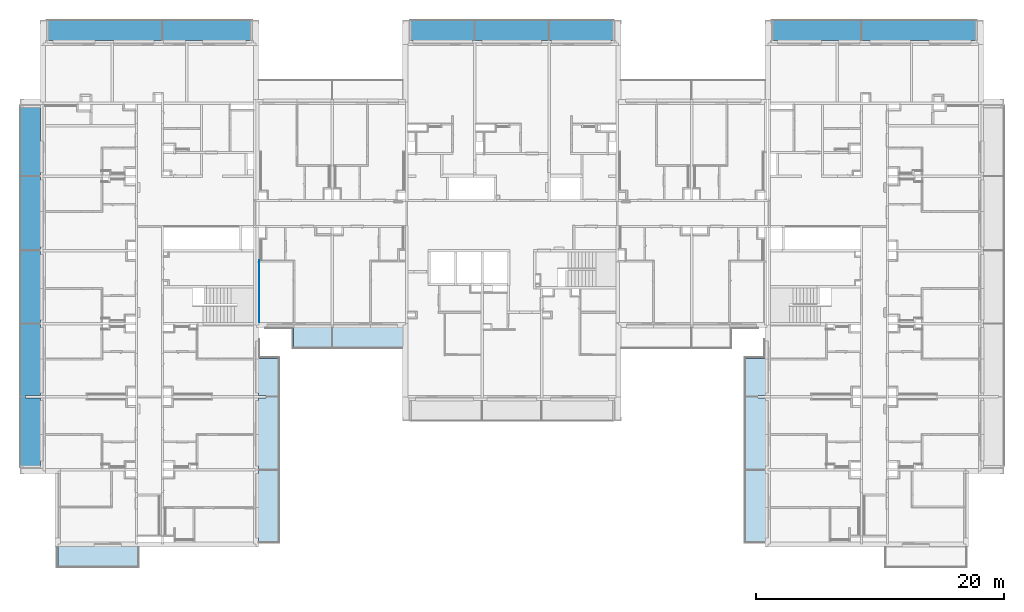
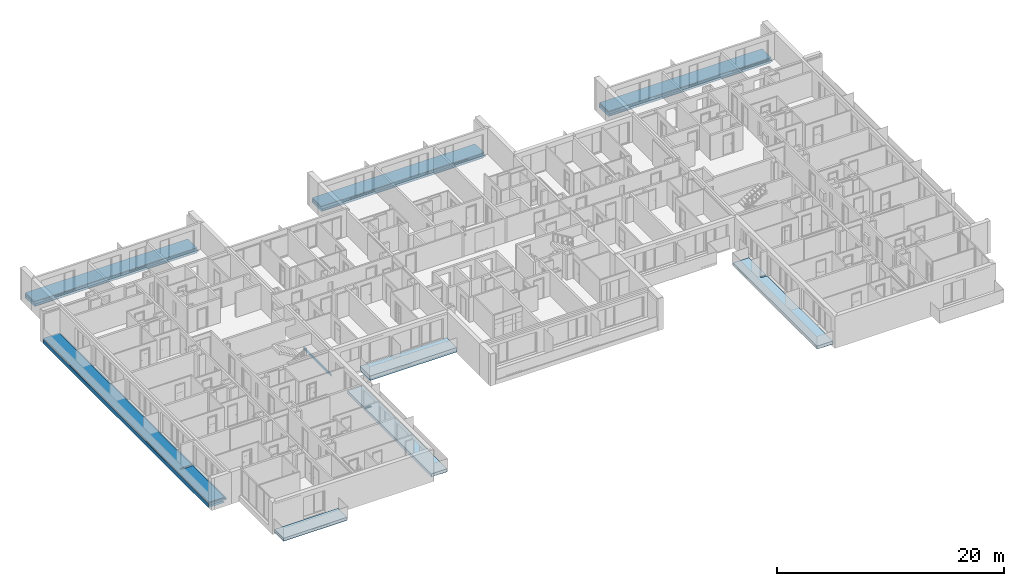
# One storey, part 1 of 67: 5 slabs, 4 beams.
"""IFC2X3 building model written with IfcOpenShell, lengths in millimetres."""

import ifcopenshell
import ifcopenshell.guid

model = None  # the IFC model being written
_history = None  # IfcOwnerHistory: only IFC2X3 demands one
_inside = {}  # id of a spatial element -> (the spatial element, [elements in it])
_under = {}  # id of a project, library or spatial element -> (it, [spatial elements below it])
_declared = {}  # id of a project -> (the project, [libraries it declares])
_typed = {}  # id of a type object -> (the type object, [elements of that type])
_made_of = {}  # id of a material, layer set ... -> (it, [elements and type objects made of it])


def new_model(schema):
    """Start an empty IFC model of exactly this schema.

    Asked for "IFC4X3", IfcOpenShell would pick the latest addendum, in which some entities
    have other attributes; the version numbers below select the first issue.
    IFC2X3 requires an IfcOwnerHistory on every rooted entity: one is made here for all.
    """
    global model, _history
    if schema == "IFC4X3":
        model = ifcopenshell.file(schema_version=(4, 3, 0, 0))
    else:
        model = ifcopenshell.file(schema=schema)
    _inside.clear()
    _under.clear()
    _declared.clear()
    _typed.clear()
    _made_of.clear()
    _history = None
    if model.schema == "IFC2X3":
        org = make("IfcOrganization", Name="unknown")
        user = make(
            "IfcPersonAndOrganization",
            ThePerson=make("IfcPerson", FamilyName="unknown"),
            TheOrganization=org,
        )
        app = make(
            "IfcApplication",
            ApplicationDeveloper=org,
            Version="unknown",
            ApplicationFullName="unknown",
            ApplicationIdentifier="unknown",
        )
        _history = make(
            "IfcOwnerHistory",
            OwningUser=user,
            OwningApplication=app,
            ChangeAction="ADDED",
            CreationDate=0,
        )
    return model


def make(cls, **values):
    """One entity of the class cls with the attributes given. An attribute that is None is left unset."""
    return model.create_entity(
        cls, **{name: value for name, value in values.items() if value is not None}
    )


def entity(cls, *values):
    """Any entity or typed value of the class cls, its attributes in the order of the schema. None: left unset."""
    e = model.create_entity(cls)
    for i, value in enumerate(values):
        if value is not None:
            e[i] = value
    return e


def rooted(cls, **values):
    """An entity with a GlobalId (a new one), such as an element, a storey or a relation."""
    return make(cls, GlobalId=ifcopenshell.guid.new(), OwnerHistory=_history, **values)


def si_unit(unit_type, name, prefix=None):
    """IfcSIUnit, for example si_unit("LENGTHUNIT", "METRE", prefix="MILLI")."""
    return make("IfcSIUnit", UnitType=unit_type, Prefix=prefix, Name=name)


def converted_unit(unit_type, name, factor, base, dimensions=None, offset=None):
    """IfcConversionBasedUnit, such as the inch: factor (a typed value) times the base unit."""
    return make(
        "IfcConversionBasedUnit"
        if offset is None
        else "IfcConversionBasedUnitWithOffset",
        ConversionOffset=offset,
        Dimensions=None
        if dimensions is None
        else entity("IfcDimensionalExponents", *dimensions),
        UnitType=unit_type,
        Name=name,
        ConversionFactor=make(
            "IfcMeasureWithUnit", ValueComponent=factor, UnitComponent=base
        ),
    )


def derived_unit(unit_type, elements):
    """IfcDerivedUnit: a product of units, each with its exponent."""
    return make(
        "IfcDerivedUnit",
        Elements=[
            make("IfcDerivedUnitElement", Unit=unit, Exponent=power)
            for unit, power in elements
        ],
        UnitType=unit_type,
    )


def money_unit(currency):
    """IfcMonetaryUnit."""
    return make("IfcMonetaryUnit", Currency=currency)


def assignment(units):
    """IfcUnitAssignment: the units of a project."""
    return None if units is None else make("IfcUnitAssignment", Units=units)


def point(xyz):
    """IfcCartesianPoint."""
    return None if xyz is None else make("IfcCartesianPoint", Coordinates=xyz)


def direction(xyz):
    """IfcDirection."""
    return None if xyz is None else make("IfcDirection", DirectionRatios=xyz)


def frame(location, z_axis=None, x_axis=None):
    """IfcAxis2Placement3D, a coordinate frame: its origin and axes. An axis left out is left unset."""
    return make(
        "IfcAxis2Placement3D",
        Location=point(location),
        Axis=direction(z_axis),
        RefDirection=direction(x_axis),
    )


def origin_with_axes():
    """The frame at (0, 0, 0) with the z axis (0, 0, 1) and the x axis (1, 0, 0) written out."""
    return frame((0.0, 0.0, 0.0), z_axis=(0.0, 0.0, 1.0), x_axis=(1.0, 0.0, 0.0))


def place(relative_to, where):
    """IfcLocalPlacement: puts the frame where relative to a parent placement (None: the world)."""
    return make(
        "IfcLocalPlacement", PlacementRelTo=relative_to, RelativePlacement=where
    )


def context(
    kind, dimensions, precision=None, world=None, true_north=None, identifier=None
):
    """IfcGeometricRepresentationContext, for example the 3D "Model" context."""
    return make(
        "IfcGeometricRepresentationContext",
        ContextIdentifier=identifier,
        ContextType=kind,
        CoordinateSpaceDimension=dimensions,
        Precision=precision,
        WorldCoordinateSystem=world,
        TrueNorth=true_north,
    )


def subcontext(parent, identifier, kind, view, scale=None):
    """IfcGeometricRepresentationSubContext, for example "Body" below "Model"."""
    return make(
        "IfcGeometricRepresentationSubContext",
        ContextIdentifier=identifier,
        ContextType=kind,
        ParentContext=parent,
        TargetScale=scale,
        TargetView=view,
    )


def project(units=None, contexts=None):
    """IfcProject with its units and contexts."""
    return rooted(
        "IfcProject",
        Name="project",
        RepresentationContexts=contexts,
        UnitsInContext=assignment(units),
    )


def spatial(cls, under=None, at=None, **own):
    """A site, building, storey or space (cls), placed at a placement, below another one or the project."""
    s = rooted(cls, ObjectPlacement=at, **own)
    if under is not None:
        _under.setdefault(under.id(), (under, []))[1].append(s)
    return s


def faces_of(points, faces, orient=None, outer=None):
    """IfcFace entities. A face is a list of loops; a loop is a list of indices into points, from 0.

    orient and outer hold one flag for each loop. By default every Orientation is true, the
    first loop of a face is its IfcFaceOuterBound and the others are IfcFaceBound.
    """
    made = []
    for i, loops in enumerate(faces):
        bounds = []
        for j, loop in enumerate(loops):
            is_outer = j == 0 if outer is None else outer[i][j]
            bounds.append(
                make(
                    "IfcFaceOuterBound" if is_outer else "IfcFaceBound",
                    Bound=make("IfcPolyLoop", Polygon=[points[k] for k in loop]),
                    Orientation=True if orient is None else orient[i][j],
                )
            )
        made.append(make("IfcFace", Bounds=bounds))
    return made


def faceted_brep(points, faces, orient=None, outer=None, voids=None):
    """IfcFacetedBrep: a solid bounded by flat faces; with voids (closed shells), ...WithVoids."""
    shared = [point(p) for p in points]
    hull = make("IfcClosedShell", CfsFaces=faces_of(shared, faces, orient, outer))
    if voids is None:
        return make("IfcFacetedBrep", Outer=hull)
    return make(
        "IfcFacetedBrepWithVoids",
        Outer=hull,
        Voids=[
            make(cls, CfsFaces=faces_of(shared, fs, o, b)) for cls, fs, o, b in voids
        ],
    )


def shape(context_of_items, identifier, shape_type, items):
    """IfcShapeRepresentation: the items that make up one representation, for example the "Body"."""
    return make(
        "IfcShapeRepresentation",
        ContextOfItems=context_of_items,
        RepresentationIdentifier=identifier,
        RepresentationType=shape_type,
        Items=items,
    )


def material(Name=None, Category=None):
    """IfcMaterial."""
    return make("IfcMaterial", Name=Name, Category=Category)


def material_list(materials):
    """IfcMaterialList."""
    return make("IfcMaterialList", Materials=materials)


def made_of(thing, what):
    """Note that an element or type object is made of a material, layer set ...; save() writes the relation."""
    if what is not None:
        _made_of.setdefault(what.id(), (what, []))[1].append(thing)
    return thing


def type_object(cls, material=None, **own):
    """A type object (cls), such as IfcWallType, which elements share."""
    return made_of(rooted(cls, **own), material)


def element(
    cls,
    number,
    at=None,
    inside=None,
    cuts=None,
    type_object=None,
    material=None,
    context=None,
    identifier="Body",
    shape_type=None,
    held_by="IfcProductDefinitionShape",
    body=None,
    shapes=None,
    **own,
):
    """One element of the class cls, such as IfcWall. Its Tag is "e" and its number.

    at: its placement. inside: the storey or other place that contains it. cuts: it is an
    opening in that element (IfcRelVoidsElement). A single representation is given by context,
    identifier, shape_type and body (its items); several are given by shapes. held_by: the class
    of the entity that holds the representations. save() writes the other relations.
    """
    e = rooted(cls, Tag="e%d" % number, ObjectPlacement=at, **own)
    if body is not None:
        shapes = [shape(context, identifier, shape_type, body)]
    if shapes is not None:
        e.Representation = make(held_by, Representations=shapes)
    if inside is not None:
        _inside.setdefault(inside.id(), (inside, []))[1].append(e)
    if cuts is not None:
        rooted(
            "IfcRelVoidsElement", RelatingBuildingElement=cuts, RelatedOpeningElement=e
        )
    if type_object is not None:
        _typed.setdefault(type_object.id(), (type_object, []))[1].append(e)
    return made_of(e, material)


def aggregate(whole, parts):
    """IfcRelAggregates: a whole, such as a stair, and the parts it consists of."""
    return rooted("IfcRelAggregates", RelatingObject=whole, RelatedObjects=parts)


def save(model, path):
    """Write the relations noted so far, then the file.

    IfcRelAggregates (storeys below a building ...), IfcRelContainedInSpatialStructure (elements
    in a storey), IfcRelDefinesByType, IfcRelAssociatesMaterial and IfcRelDeclares: one each for
    every whole, place, type object, material and project.
    """
    for whole, parts in _under.values():
        aggregate(whole, parts)
    for where, things in _inside.values():
        rooted(
            "IfcRelContainedInSpatialStructure",
            RelatedElements=things,
            RelatingStructure=where,
        )
    for kind, things in _typed.values():
        rooted("IfcRelDefinesByType", RelatedObjects=things, RelatingType=kind)
    for what, things in _made_of.values():
        rooted("IfcRelAssociatesMaterial", RelatedObjects=things, RelatingMaterial=what)
    for by, libraries in _declared.values():
        rooted("IfcRelDeclares", RelatingContext=by, RelatedDefinitions=libraries)
    model.write(path)


model = new_model("IFC2X3")

# Units and contexts
model_context = context("Model", 3, precision=0.01, world=origin_with_axes(), true_north=direction((0.34421633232, 0.938890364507)))
body_context = subcontext(model_context, "Body", "Model", "MODEL_VIEW")
ifc_project = project(units=[si_unit("LENGTHUNIT", "METRE", prefix="MILLI"), si_unit("AREAUNIT", "SQUARE_METRE"), si_unit("VOLUMEUNIT", "CUBIC_METRE"), converted_unit("PLANEANGLEUNIT", "DEGREE", entity("IfcPlaneAngleMeasure", 0.0174532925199), si_unit("PLANEANGLEUNIT", "RADIAN"), dimensions=[0, 0, 0, 0, 0, 0, 0]), si_unit("SOLIDANGLEUNIT", "STERADIAN"), money_unit("USD"), converted_unit("TIMEUNIT", "Year", entity("IfcTimeMeasure", 31556926.0), si_unit("TIMEUNIT", "SECOND"), dimensions=[0, 0, 1, 0, 0, 0, 0]), si_unit("MASSUNIT", "GRAM", prefix="KILO"), si_unit("THERMODYNAMICTEMPERATUREUNIT", "DEGREE_CELSIUS"), si_unit("LUMINOUSINTENSITYUNIT", "LUMEN"), si_unit("ENERGYUNIT", "JOULE", prefix="MEGA"), derived_unit("THERMALCONDUCTANCEUNIT", [(si_unit("POWERUNIT", "WATT"), 1), (si_unit("LENGTHUNIT", "METRE"), -1), (si_unit("THERMODYNAMICTEMPERATUREUNIT", "KELVIN"), -1)]), derived_unit("SPECIFICHEATCAPACITYUNIT", [(si_unit("ENERGYUNIT", "JOULE"), 1), (si_unit("MASSUNIT", "GRAM", prefix="KILO"), -1), (si_unit("THERMODYNAMICTEMPERATUREUNIT", "KELVIN"), -1)]), derived_unit("MASSDENSITYUNIT", [(si_unit("MASSUNIT", "GRAM", prefix="KILO"), 1), (si_unit("VOLUMEUNIT", "CUBIC_METRE"), -1)])], contexts=[model_context])

# Site, building, storey
site_placement = place(None, origin_with_axes())
site = spatial("IfcSite", under=ifc_project, at=site_placement, Name="USTRONIE MORSKIE", CompositionType="ELEMENT")
building_placement = place(site_placement, origin_with_axes())
building = spatial("IfcBuilding", under=site, at=building_placement, Name="Budynek", CompositionType="ELEMENT")
storey_placement = place(building_placement, frame((0.0, 0.0, 4000.0), z_axis=(0.0, 0.0, 1.0), x_axis=(1.0, 0.0, 0.0)))
storey = spatial("IfcBuildingStorey", under=building, at=storey_placement, Name="PIĘTRO 1", CompositionType="ELEMENT", Elevation=4000.0)

# Beams
ifc_material_1 = material(Name="Laminat")
ifc_material_2 = material(Name="Membrana przeciwwilgociowa")
ifc_material_3 = material(Name="Blacha ocynkowana")
ifc_material_4 = material(Name="Beton konstrukcyjny B25")
ifc_material_5 = material(Name="Płyty styropianowe twarde HIGH-PRIORITY")
ifc_material_list_1 = material_list([ifc_material_1, ifc_material_2, ifc_material_3, ifc_material_4, ifc_material_5])
beam_type = type_object("IfcBeamType", Name="USTR - balkon_01 1850 x 570", PredefinedType="NOTDEFINED")
beam_1_placement = place(storey_placement, frame((396107.920919, 749551.198952, -360.000001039), z_axis=(0.0, 0.0, 1.0), x_axis=(0.0, 1.0, 0.0)))
element("IfcBeam", 1, at=beam_1_placement, inside=storey, type_object=beam_type, material=ifc_material_list_1, Name="P7", context=body_context, shape_type="Brep", body=[
    faceted_brep([(1799.99990232, 0.0, 330.0), (1799.99990232, 16580.0, 330.0), (214.999902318, 16580.0, 330.0), (214.999902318, 0.0, 330.0), (1799.99990232, 0.0, 215.0), (1799.99990232, 16580.0, 215.0), (1774.99990232, 16580.0, 215.0), (1774.99990232, 16580.0, 305.0), (214.999902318, 16580.0, 305.0), (214.999902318, 0.0, 305.0), (1774.99990232, 0.0, 305.0), (1774.99990232, 0.0, 215.0)], [[[0, 1, 2, 3]], [[4, 5, 1, 0]], [[2, 1, 5, 6, 7, 8]], [[3, 2, 8, 9]], [[4, 0, 3, 9, 10, 11]], [[11, 6, 5, 4]], [[10, 7, 6, 11]], [[9, 8, 7, 10]]]),
    faceted_brep([(199.999969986, 0.0, 199.999981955), (199.999969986, 16580.0, 199.999981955), (1799.99990437, 16580.0, 200.000006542), (1799.99990437, 0.0, 200.000006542), (199.999969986, 0.0, 210.000006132), (199.999969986, 16580.0, 210.000006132), (1799.99990437, 16580.0, 209.999981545), (1799.99990437, 0.0, 209.999981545)], [[[0, 1, 2, 3]], [[4, 5, 1, 0]], [[2, 1, 5, 6]], [[3, 2, 6, 7]], [[4, 0, 3, 7]], [[7, 6, 5, 4]]]),
    faceted_brep([(1799.99991218, 0.0, 209.999989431), (1799.99991218, 16580.0, 209.999989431), (1799.99991218, 16580.0, 194.999997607), (1799.99991218, 0.0, 194.999997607), (1849.99990232, 0.0, 209.999989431), (1849.99990232, 16580.0, 209.999989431), (1849.99990232, 16580.0, -240.0), (209.999996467, 16580.0, -240.0), (209.999996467, 16580.0, -219.999993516), (1834.99991049, 16580.0, -219.999993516), (1834.99991049, 16580.0, 194.999997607), (1834.99991049, 0.0, 194.999997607), (1834.99991049, 0.0, -219.999993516), (209.999996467, 0.0, -219.999993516), (209.999996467, 0.0, -240.0), (1849.99990232, 0.0, -240.0)], [[[0, 1, 2, 3]], [[4, 5, 1, 0]], [[2, 1, 5, 6, 7, 8, 9, 10]], [[3, 2, 10, 11]], [[4, 0, 3, 11, 12, 13, 14, 15]], [[15, 6, 5, 4]], [[14, 7, 6, 15]], [[13, 8, 7, 14]], [[12, 9, 8, 13]], [[11, 10, 9, 12]]]),
    faceted_brep([(199.999969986, 16580.0, 199.999981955), (99.9999868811, 16580.0, 200.000008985), (99.9999868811, 0.0, 200.000008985), (199.999969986, 0.0, 199.999981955), (1799.99990232, 16580.0, 200.000008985), (1799.99991218, 16580.0, 194.999997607), (1799.99990232, 16580.0, 0.0), (99.9999868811, 16580.0, 0.0), (99.9999868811, 0.0, 0.0), (1799.99990232, 0.0, 0.0), (1799.99991218, 0.0, 194.999997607), (1799.99990232, 0.0, 200.000008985)], [[[0, 1, 2, 3]], [[0, 4, 5, 6, 7, 1]], [[1, 7, 8, 2]], [[3, 2, 8, 9, 10, 11]], [[4, 0, 3, 11]], [[5, 4, 11, 10]], [[6, 5, 10, 9]], [[7, 6, 9, 8]]]),
    faceted_brep([(99.9999823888, 0.0, 0.0), (99.9999823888, 16580.0, 0.0), (99.9999823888, 16580.0, 200.0), (99.9999823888, 0.0, 200.0), (0.0, 0.0, 0.0), (0.0, 16580.0, 0.0), (-1.76112280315e-05, 16580.0, 200.0), (-1.76112280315e-05, 0.0, 200.0)], [[[0, 1, 2, 3]], [[4, 5, 1, 0]], [[2, 1, 5, 6]], [[3, 2, 6, 7]], [[4, 0, 3, 7]], [[7, 6, 5, 4]]]),
])
beam_2_placement = place(storey_placement, frame((425357.920919, 749551.198952, -360.000001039), z_axis=(0.0, 0.0, 1.0), x_axis=(0.0, 1.0, 0.0)))
element("IfcBeam", 2, at=beam_2_placement, inside=storey, type_object=beam_type, material=ifc_material_list_1, Name="B1", context=body_context, shape_type="Brep", body=[
    faceted_brep([(1799.99990232, 0.0, 330.0), (1799.99990232, 16580.0, 330.0), (214.999902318, 16580.0, 330.0), (214.999902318, 0.0, 330.0), (1799.99990232, 0.0, 215.0), (1799.99990232, 16580.0, 215.0), (1774.99990232, 16580.0, 215.0), (1774.99990232, 16580.0, 305.0), (214.999902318, 16580.0, 305.0), (214.999902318, 0.0, 305.0), (1774.99990232, 0.0, 305.0), (1774.99990232, 0.0, 215.0)], [[[0, 1, 2, 3]], [[4, 5, 1, 0]], [[2, 1, 5, 6, 7, 8]], [[3, 2, 8, 9]], [[4, 0, 3, 9, 10, 11]], [[11, 6, 5, 4]], [[10, 7, 6, 11]], [[9, 8, 7, 10]]]),
    faceted_brep([(199.999969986, 0.0, 199.999981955), (199.999969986, 16580.0, 199.999981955), (1799.99990437, 16580.0, 200.000006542), (1799.99990437, 0.0, 200.000006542), (199.999969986, 0.0, 210.000006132), (199.999969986, 16580.0, 210.000006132), (1799.99990437, 16580.0, 209.999981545), (1799.99990437, 0.0, 209.999981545)], [[[0, 1, 2, 3]], [[4, 5, 1, 0]], [[2, 1, 5, 6]], [[3, 2, 6, 7]], [[4, 0, 3, 7]], [[7, 6, 5, 4]]]),
    faceted_brep([(1799.99991218, 0.0, 209.999989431), (1799.99991218, 16580.0, 209.999989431), (1799.99991218, 16580.0, 194.999997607), (1799.99991218, 0.0, 194.999997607), (1849.99990232, 0.0, 209.999989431), (1849.99990232, 16580.0, 209.999989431), (1849.99990232, 16580.0, -240.0), (209.999996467, 16580.0, -240.0), (209.999996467, 16580.0, -219.999993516), (1834.99991049, 16580.0, -219.999993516), (1834.99991049, 16580.0, 194.999997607), (1834.99991049, 0.0, 194.999997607), (1834.99991049, 0.0, -219.999993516), (209.999996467, 0.0, -219.999993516), (209.999996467, 0.0, -240.0), (1849.99990232, 0.0, -240.0)], [[[0, 1, 2, 3]], [[4, 5, 1, 0]], [[2, 1, 5, 6, 7, 8, 9, 10]], [[3, 2, 10, 11]], [[4, 0, 3, 11, 12, 13, 14, 15]], [[15, 6, 5, 4]], [[14, 7, 6, 15]], [[13, 8, 7, 14]], [[12, 9, 8, 13]], [[11, 10, 9, 12]]]),
    faceted_brep([(199.999969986, 16580.0, 199.999981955), (99.9999868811, 16580.0, 200.000008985), (99.9999868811, 0.0, 200.000008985), (199.999969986, 0.0, 199.999981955), (1799.99990232, 16580.0, 200.000008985), (1799.99991218, 16580.0, 194.999997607), (1799.99990232, 16580.0, 0.0), (99.9999868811, 16580.0, 0.0), (99.9999868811, 0.0, 0.0), (1799.99990232, 0.0, 0.0), (1799.99991218, 0.0, 194.999997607), (1799.99990232, 0.0, 200.000008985)], [[[0, 1, 2, 3]], [[0, 4, 5, 6, 7, 1]], [[1, 7, 8, 2]], [[3, 2, 8, 9, 10, 11]], [[4, 0, 3, 11]], [[5, 4, 11, 10]], [[6, 5, 10, 9]], [[7, 6, 9, 8]]]),
    faceted_brep([(99.9999823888, 0.0, 0.0), (99.9999823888, 16580.0, 0.0), (99.9999823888, 16580.0, 200.0), (99.9999823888, 0.0, 200.0), (0.0, 0.0, 0.0), (0.0, 16580.0, 0.0), (-1.76112280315e-05, 16580.0, 200.0), (-1.76112280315e-05, 0.0, 200.0)], [[[0, 1, 2, 3]], [[4, 5, 1, 0]], [[2, 1, 5, 6]], [[3, 2, 6, 7]], [[4, 0, 3, 7]], [[7, 6, 5, 4]]]),
])
beam_3_placement = place(storey_placement, frame((349967.921087, 715311.199036, -360.000001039), z_axis=(0.0, 0.0, 1.0), x_axis=(1.0, 2.8650699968e-09, 0.0)))
element("IfcBeam", 3, at=beam_3_placement, inside=storey, type_object=beam_type, material=ifc_material_list_1, Name="P7", context=body_context, shape_type="Brep", body=[
    faceted_brep([(-214.999902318, 5590.00000062, 330.0), (-1420.00015182, 5590.00000407, 330.0), (-1420.00015125, 5790.00000407, 330.0), (-214.999902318, 5790.00000062, 330.0), (-214.999902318, 29180.0, 330.0), (-1799.99990232, 29180.0, 330.0), (-1799.99990232, -1.13686837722e-10, 330.0), (-214.999902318, 0.0, 330.0), (-1420.00015182, 5590.00000407, 305.0), (-214.999902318, 5590.00000062, 305.0), (-1420.00015125, 5790.00000407, 305.0), (-214.999902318, 5790.00000062, 305.0), (-214.999902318, 29180.0, 305.0), (-1774.99990232, 29180.0, 305.0), (-1774.99990232, 29180.0, 215.0), (-1799.99990232, 29180.0, 215.0), (-1799.99990232, -1.13686837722e-10, 215.0), (-1774.99990232, -1.13686837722e-10, 215.0), (-1774.99990232, -1.13686837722e-10, 305.0), (-214.999902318, 0.0, 305.0)], [[[0, 1, 2, 3, 4, 5, 6, 7]], [[8, 1, 0, 9]], [[10, 2, 1, 8]], [[10, 11, 3, 2]], [[4, 3, 11, 12]], [[13, 14, 15, 5, 4, 12]], [[16, 6, 5, 15]], [[7, 6, 16, 17, 18, 19]], [[19, 9, 0, 7]], [[10, 8, 9, 19, 18, 13, 12, 11]], [[18, 17, 14, 13]], [[17, 16, 15, 14]]]),
    faceted_brep([(-199.999969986, 5590.00000057, 210.000006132), (-1420.00015182, 5590.00000407, 209.999987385), (-1420.00015125, 5790.00000407, 209.999987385), (-199.999969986, 5790.00000057, 210.000006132), (-199.999969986, 29180.0, 210.000006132), (-1799.99990437, 29180.0, 209.999981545), (-1799.99990437, -1.13686837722e-10, 209.999981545), (-199.999969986, 0.0, 210.000006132), (-1420.00015182, 5590.00000407, 200.000001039), (-199.999969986, 5590.00000057, 200.000001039), (-1420.00015125, 5790.00000407, 200.000001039), (-199.999969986, 5790.00000057, 200.000001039), (-199.999969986, 29180.0, 199.999981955), (-1799.99990437, 29180.0, 200.000006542), (-1799.99990437, -1.13686837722e-10, 200.000006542), (-199.999969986, 0.0, 199.999981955)], [[[0, 1, 2, 3, 4, 5, 6, 7]], [[8, 1, 0, 9]], [[10, 2, 1, 8]], [[10, 11, 3, 2]], [[4, 3, 11, 12]], [[13, 5, 4, 12]], [[14, 6, 5, 13]], [[14, 15, 7, 6]], [[15, 9, 0, 7]], [[10, 8, 9, 15, 14, 13, 12, 11]]]),
    faceted_brep([(-209.999996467, 5590.0000006, -219.999993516), (-800.031430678, 5590.00000229, -219.999993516), (-800.031430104, 5790.00000229, -219.999993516), (-209.999996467, 5790.0000006, -219.999993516), (-209.999996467, 29180.0, -219.999993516), (-1834.99991049, 29180.0, -219.999993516), (-1834.99991049, -1.13686837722e-10, -219.999993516), (-209.999996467, 0.0, -219.999993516), (-800.031430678, 5590.00000229, -240.0), (-209.999996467, 5590.0000006, -240.0), (-800.031430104, 5790.00000229, -240.0), (-209.999996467, 5790.0000006, -240.0), (-209.999996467, 29180.0, -240.0), (-1849.99990232, 29180.0, -240.0), (-1849.99990232, 29180.0, 209.999989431), (-1799.99991218, 29180.0, 209.999989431), (-1799.99991218, 29180.0, 194.999997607), (-1834.99991049, 29180.0, 194.999997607), (-1834.99991049, -1.13686837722e-10, 194.999997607), (-1799.99991218, -1.13686837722e-10, 194.999997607), (-1799.99991218, -1.13686837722e-10, 209.999989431), (-1849.99990232, -1.13686837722e-10, 209.999989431), (-1849.99990232, -1.13686837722e-10, -240.0), (-209.999996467, 0.0, -240.0)], [[[0, 1, 2, 3, 4, 5, 6, 7]], [[8, 1, 0, 9]], [[10, 2, 1, 8]], [[10, 11, 3, 2]], [[4, 3, 11, 12]], [[12, 13, 14, 15, 16, 17, 5, 4]], [[18, 6, 5, 17]], [[19, 20, 21, 22, 23, 7, 6, 18]], [[23, 9, 0, 7]], [[10, 8, 9, 23, 22, 13, 12, 11]], [[22, 21, 14, 13]], [[21, 20, 15, 14]], [[20, 19, 16, 15]], [[19, 18, 17, 16]]]),
    faceted_brep([(-1799.99990232, -1.13686837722e-10, 200.000008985), (-1799.99990232, 29180.0, 200.000008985), (-1799.99991218, 29180.0, 194.999997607), (-1799.99991218, -1.13686837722e-10, 194.999997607), (-199.999969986, 0.0, 199.999981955), (-199.999969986, 29180.0, 199.999981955), (-99.9999868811, 29180.0, 200.000008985), (-99.9999868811, 29180.0, 0.0), (-1799.99990232, 29180.0, 0.0), (-1799.99990232, -1.13686837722e-10, 0.0), (-99.9999868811, 0.0, 0.0), (-99.9999868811, 0.0, 200.000008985)], [[[0, 1, 2, 3]], [[4, 5, 1, 0]], [[2, 1, 5, 6, 7, 8]], [[3, 2, 8, 9]], [[4, 0, 3, 9, 10, 11]], [[11, 6, 5, 4]], [[10, 7, 6, 11]], [[9, 8, 7, 10]]]),
    faceted_brep([(1.76112280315e-05, 0.0, 200.0), (0.0, 0.0, 0.0), (0.0, 29180.0, 0.0), (1.76112280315e-05, 29180.0, 200.0), (-99.9999823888, 0.0, 200.0), (-99.9999823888, 0.0, 0.0), (-99.9999823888, 29180.0, 0.0), (-99.9999823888, 29180.0, 200.0)], [[[0, 1, 2, 3]], [[4, 5, 1, 0]], [[1, 5, 6, 2]], [[7, 3, 2, 6]], [[4, 0, 3, 7]], [[5, 4, 7, 6]]]),
])
beam_4_placement = place(storey_placement, frame((350277.920919, 749551.198952, -360.000001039), z_axis=(0.0, 0.0, 1.0), x_axis=(0.0, -1.0, 0.0)))
element("IfcBeam", 4, at=beam_4_placement, inside=storey, type_object=beam_type, material=ifc_material_list_1, Name="B1", context=body_context, shape_type="Brep", body=[
    faceted_brep([(-1799.99990232, 0.0, 215.0), (-1799.99990232, 16580.0, 215.0), (-1774.99990232, 16580.0, 215.0), (-1774.99990232, 0.0, 215.0), (-1799.99990232, 0.0, 330.0), (-1799.99990232, 16580.0, 330.0), (-214.999902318, 16580.0, 330.0), (-214.999902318, 16580.0, 305.0), (-1774.99990232, 16580.0, 305.0), (-1774.99990232, 0.0, 305.0), (-214.999902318, 0.0, 305.0), (-214.999902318, 0.0, 330.0)], [[[0, 1, 2, 3]], [[4, 5, 1, 0]], [[2, 1, 5, 6, 7, 8]], [[3, 2, 8, 9]], [[4, 0, 3, 9, 10, 11]], [[11, 6, 5, 4]], [[10, 7, 6, 11]], [[9, 8, 7, 10]]]),
    faceted_brep([(-199.999969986, 0.0, 210.000006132), (-199.999969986, 16580.0, 210.000006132), (-1799.99990437, 16580.0, 209.999981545), (-1799.99990437, 0.0, 209.999981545), (-199.999969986, 0.0, 199.999981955), (-199.999969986, 16580.0, 199.999981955), (-1799.99990437, 16580.0, 200.000006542), (-1799.99990437, 0.0, 200.000006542)], [[[0, 1, 2, 3]], [[4, 5, 1, 0]], [[2, 1, 5, 6]], [[3, 2, 6, 7]], [[4, 0, 3, 7]], [[7, 6, 5, 4]]]),
    faceted_brep([(-1849.99990232, 0.0, 209.999989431), (-1849.99990232, 16580.0, 209.999989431), (-1849.99990232, 16580.0, -240.0), (-1849.99990232, 0.0, -240.0), (-1799.99991218, 0.0, 209.999989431), (-1799.99991218, 16580.0, 209.999989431), (-1799.99991218, 16580.0, 194.999997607), (-1834.99991049, 16580.0, 194.999997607), (-1834.99991049, 16580.0, -219.999993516), (-209.999996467, 16580.0, -219.999993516), (-209.999996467, 16580.0, -240.0), (-209.999996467, 0.0, -240.0), (-209.999996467, 0.0, -219.999993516), (-1834.99991049, 0.0, -219.999993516), (-1834.99991049, 0.0, 194.999997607), (-1799.99991218, 0.0, 194.999997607)], [[[0, 1, 2, 3]], [[4, 5, 1, 0]], [[2, 1, 5, 6, 7, 8, 9, 10]], [[3, 2, 10, 11]], [[4, 0, 3, 11, 12, 13, 14, 15]], [[15, 6, 5, 4]], [[14, 7, 6, 15]], [[13, 8, 7, 14]], [[12, 9, 8, 13]], [[11, 10, 9, 12]]]),
    faceted_brep([(-1799.99990232, 16580.0, 200.000008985), (-1799.99991218, 16580.0, 194.999997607), (-1799.99991218, 0.0, 194.999997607), (-1799.99990232, 0.0, 200.000008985), (-199.999969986, 16580.0, 199.999981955), (-99.9999868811, 16580.0, 200.000008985), (-99.9999868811, 16580.0, 0.0), (-1799.99990232, 16580.0, 0.0), (-1799.99990232, 0.0, 0.0), (-99.9999868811, 0.0, 0.0), (-99.9999868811, 0.0, 200.000008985), (-199.999969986, 0.0, 199.999981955)], [[[0, 1, 2, 3]], [[0, 4, 5, 6, 7, 1]], [[1, 7, 8, 2]], [[3, 2, 8, 9, 10, 11]], [[4, 0, 3, 11]], [[5, 4, 11, 10]], [[6, 5, 10, 9]], [[7, 6, 9, 8]]]),
    faceted_brep([(0.0, 0.0, 0.0), (0.0, 16580.0, 0.0), (1.76112280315e-05, 16580.0, 200.0), (1.76112280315e-05, 0.0, 200.0), (-99.9999823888, 0.0, 0.0), (-99.9999823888, 16580.0, 0.0), (-99.9999823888, 16580.0, 200.0), (-99.9999823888, 0.0, 200.0)], [[[0, 1, 2, 3]], [[4, 5, 1, 0]], [[2, 1, 5, 6]], [[3, 2, 6, 7]], [[4, 0, 3, 7]], [[7, 6, 5, 4]]]),
])

# Slabs
ifc_material_6 = material(Name="Wylewka")
ifc_material_7 = material(Name="Płyty styropianowe EPS PODŁOGA")
ifc_material_8 = material(Name="STROP monolityczny")
ifc_material_list_2 = material_list([ifc_material_6, ifc_material_7, ifc_material_8])
slab_type_1 = type_object("IfcSlabType", Name="502-PS STROP POWTARZALNA 360", PredefinedType="FLOOR")
slab_1_placement = place(storey_placement, frame((367417.932951, 732011.199132, 0.0), z_axis=(0.0, 0.0, 1.0), x_axis=(1.0, 0.0, 0.0)))
element("IfcSlab", 5, at=slab_1_placement, inside=storey, type_object=slab_type_1, material=ifc_material_list_2, Name="P4", PredefinedType="FLOOR", context=body_context, shape_type="Brep", body=[
    faceted_brep([(0.000114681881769, -120.0, -80.0), (0.000114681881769, -120.0, -15.0), (0.00478796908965, -5010.00009633, -15.0), (0.00478796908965, -5010.00009633, -80.0), (-0.0120320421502, -120.0, -15.0), (-0.0120320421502, -120.0, -80.0), (-0.0120320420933, -5010.00009633, -15.0), (-0.0120320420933, -5010.00009633, -80.0)], [[[0, 1, 2, 3]], [[4, 1, 0, 5]], [[1, 4, 6, 2]], [[7, 3, 2, 6]], [[5, 0, 3, 7]], [[4, 5, 7, 6]]]),
    faceted_brep([(0.000114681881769, -120.0, -160.0), (0.000114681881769, -120.0, -80.0), (0.00478796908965, -5010.00009633, -80.0), (0.00478796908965, -5010.00009633, -160.0), (-0.0120320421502, -120.0, -80.0), (-0.0120320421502, -120.0, -160.0), (-0.0120320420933, -5010.00009633, -80.0), (-0.0120320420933, -5010.00009633, -160.0)], [[[0, 1, 2, 3]], [[4, 1, 0, 5]], [[1, 4, 6, 2]], [[7, 3, 2, 6]], [[5, 0, 3, 7]], [[4, 5, 7, 6]]]),
    faceted_brep([(0.0, 0.0, -360.0), (-0.0120320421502, 0.0, -360.0), (-0.0120320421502, 0.0, -160.0), (0.0, 0.0, -160.0), (0.00478796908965, -5010.00009633, -360.0), (-0.0120320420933, -5010.00009633, -360.0), (-0.0120320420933, -5010.00009633, -160.0), (0.00478796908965, -5010.00009633, -160.0)], [[[0, 1, 2, 3]], [[0, 4, 5, 1]], [[1, 5, 6, 2]], [[3, 2, 6, 7]], [[4, 0, 3, 7]], [[5, 4, 7, 6]]]),
])
ifc_material_9 = material(Name="Płytki okładzinowe")
ifc_material_10 = material(Name="Pustka powietrzna")
ifc_material_list_3 = material_list([ifc_material_9, ifc_material_10, ifc_material_2, ifc_material_4, ifc_material_1])
slab_type_2 = type_object("IfcSlabType", Name="Balkony na HALFENACH 330", PredefinedType="FLOOR")
slab_2_placement = place(storey_placement, frame((368967.926205, 724111.198359, -50.0), z_axis=(0.0, 0.0, 1.0), x_axis=(1.0, 0.0, 0.0)))
element("IfcSlab", 6, at=slab_2_placement, inside=storey, type_object=slab_type_2, material=ifc_material_list_3, Name="P8", PredefinedType="FLOOR", context=body_context, shape_type="Brep", body=[
    faceted_brep([(-999.974007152, -3209.99932241, 0.0), (-1599.991787, -3209.99932241, 0.0), (-1599.96523289, -14809.9993224, 0.0), (0.0309754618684, -14809.9993224, 0.0), (0.0, 0.0, 0.0), (-1599.99913516, 0.0, 0.0), (-1599.99224483, -3009.99932241, 0.0), (-999.974007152, -3009.99932241, 0.0), (-999.974007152, -3209.99932241, -25.0), (-1599.991787, -3209.99932241, -25.0), (-1599.96523289, -14809.9993224, -25.0), (0.0309754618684, -14809.9993224, -25.0), (0.0, 0.0, -25.0), (-1599.99913516, 0.0, -25.0), (-1599.99224483, -3009.99932241, -25.0), (-999.974007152, -3009.99932241, -25.0)], [[[0, 1, 2, 3, 4, 5, 6, 7]], [[1, 0, 8, 9]], [[1, 9, 10, 2]], [[10, 11, 3, 2]], [[11, 12, 4, 3]], [[12, 13, 5, 4]], [[14, 6, 5, 13]], [[7, 6, 14, 15]], [[0, 7, 15, 8]], [[15, 14, 13, 12, 11, 10, 9, 8]]]),
    faceted_brep([(-999.974007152, -3209.99932241, -25.0), (-1599.991787, -3209.99932241, -25.0), (-1599.96523289, -14809.9993224, -25.0), (0.0309754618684, -14809.9993224, -25.0), (0.0, 0.0, -25.0), (-1599.99913516, 0.0, -25.0), (-1599.99224483, -3009.99932241, -25.0), (-999.974007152, -3009.99932241, -25.0), (-999.974007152, -3209.99932241, -105.0), (-1599.991787, -3209.99932241, -105.0), (-1599.96523289, -14809.9993224, -105.0), (0.0309754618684, -14809.9993224, -105.0), (0.0, 0.0, -105.0), (-1599.99913516, 0.0, -105.0), (-1599.99224483, -3009.99932241, -105.0), (-999.974007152, -3009.99932241, -105.0)], [[[0, 1, 2, 3, 4, 5, 6, 7]], [[1, 0, 8, 9]], [[1, 9, 10, 2]], [[10, 11, 3, 2]], [[11, 12, 4, 3]], [[12, 13, 5, 4]], [[14, 6, 5, 13]], [[7, 6, 14, 15]], [[0, 7, 15, 8]], [[15, 14, 13, 12, 11, 10, 9, 8]]]),
    faceted_brep([(-999.974007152, -3209.99932241, -105.0), (-1599.991787, -3209.99932241, -105.0), (-1599.96523289, -14809.9993224, -105.0), (0.0309754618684, -14809.9993224, -105.0), (0.0, 0.0, -105.0), (-1599.99913516, 0.0, -105.0), (-1599.99224483, -3009.99932241, -105.0), (-999.974007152, -3009.99932241, -105.0), (-999.974007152, -3209.99932241, -110.0), (-1599.991787, -3209.99932241, -110.0), (-1599.96523289, -14809.9993224, -110.0), (0.0309754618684, -14809.9993224, -110.0), (0.0, 0.0, -110.0), (-1599.99913516, 0.0, -110.0), (-1599.99224483, -3009.99932241, -110.0), (-999.974007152, -3009.99932241, -110.0)], [[[0, 1, 2, 3, 4, 5, 6, 7]], [[1, 0, 8, 9]], [[1, 9, 10, 2]], [[10, 11, 3, 2]], [[11, 12, 4, 3]], [[12, 13, 5, 4]], [[14, 6, 5, 13]], [[7, 6, 14, 15]], [[0, 7, 15, 8]], [[15, 14, 13, 12, 11, 10, 9, 8]]]),
    faceted_brep([(-1599.99913516, 0.0, -310.0), (-1599.99913516, 0.0, -110.0), (0.0, 0.0, -110.0), (0.0, 0.0, -310.0), (-1599.96523289, -14809.9993224, -310.0), (-1599.96523289, -14809.9993224, -110.0), (0.0309754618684, -14809.9993224, -110.0), (0.0309754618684, -14809.9993224, -310.0)], [[[0, 1, 2, 3]], [[4, 5, 1, 0]], [[2, 1, 5, 6]], [[3, 2, 6, 7]], [[3, 7, 4, 0]], [[7, 6, 5, 4]]]),
    faceted_brep([(-1589.96910428, -14809.9993224, -330.0), (-1589.96910428, -14809.9993224, -310.0), (-1589.99347358, -3209.99932241, -310.0), (-1589.99347358, -3209.99932241, -330.0), (0.0309754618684, -14809.9993224, -330.0), (0.0309754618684, -14809.9993224, -310.0), (0.0, 0.0, -310.0), (-1590.00021715, 0.0, -310.0), (-1589.99389374, -3009.99932241, -310.0), (-1000.00528601, -3009.99932241, -310.0), (-1000.00528601, -3209.99932241, -310.0), (-1000.00528601, -3209.99932241, -330.0), (-1000.00528601, -3009.99932241, -330.0), (-1589.99389374, -3009.99932241, -330.0), (-1590.00021715, 0.0, -330.0), (0.0, 0.0, -330.0)], [[[0, 1, 2, 3]], [[1, 0, 4, 5]], [[2, 1, 5, 6, 7, 8, 9, 10]], [[3, 2, 10, 11]], [[0, 3, 11, 12, 13, 14, 15, 4]], [[15, 6, 5, 4]], [[14, 7, 6, 15]], [[7, 14, 13, 8]], [[8, 13, 12, 9]], [[11, 10, 9, 12]]]),
])
slab_3_placement = place(storey_placement, frame((406667.927496, 724111.198359, -50.0), z_axis=(0.0, 0.0, 1.0), x_axis=(1.0, 0.0, 0.0)))
element("IfcSlab", 7, at=slab_3_placement, inside=storey, type_object=slab_type_2, material=ifc_material_list_3, Name="P8", PredefinedType="FLOOR", context=body_context, shape_type="Brep", body=[
    faceted_brep([(999.962143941, -3209.99932241, 0.0), (999.962143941, -3009.99932241, 0.0), (1599.95091419, -3009.99932241, 0.0), (1599.95780452, 0.0, 0.0), (0.0, 0.0, 0.0), (-0.0312193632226, -14809.9993224, 0.0), (1599.92390224, -14809.9993224, 0.0), (1599.95045636, -3209.99932241, 0.0), (999.962143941, -3209.99932241, -25.0), (999.962143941, -3009.99932241, -25.0), (1599.95091419, -3009.99932241, -25.0), (1599.95780452, 0.0, -25.0), (0.0, 0.0, -25.0), (-0.0312193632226, -14809.9993224, -25.0), (1599.92390224, -14809.9993224, -25.0), (1599.95045636, -3209.99932241, -25.0)], [[[0, 1, 2, 3, 4, 5, 6, 7]], [[1, 0, 8, 9]], [[10, 2, 1, 9]], [[2, 10, 11, 3]], [[11, 12, 4, 3]], [[12, 13, 5, 4]], [[13, 14, 6, 5]], [[15, 7, 6, 14]], [[0, 7, 15, 8]], [[8, 15, 14, 13, 12, 11, 10, 9]]]),
    faceted_brep([(999.962143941, -3209.99932241, -25.0), (999.962143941, -3009.99932241, -25.0), (1599.95091419, -3009.99932241, -25.0), (1599.95780452, 0.0, -25.0), (0.0, 0.0, -25.0), (-0.0312193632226, -14809.9993224, -25.0), (1599.92390224, -14809.9993224, -25.0), (1599.95045636, -3209.99932241, -25.0), (999.962143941, -3209.99932241, -105.0), (999.962143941, -3009.99932241, -105.0), (1599.95091419, -3009.99932241, -105.0), (1599.95780452, 0.0, -105.0), (0.0, 0.0, -105.0), (-0.0312193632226, -14809.9993224, -105.0), (1599.92390224, -14809.9993224, -105.0), (1599.95045636, -3209.99932241, -105.0)], [[[0, 1, 2, 3, 4, 5, 6, 7]], [[1, 0, 8, 9]], [[10, 2, 1, 9]], [[2, 10, 11, 3]], [[11, 12, 4, 3]], [[12, 13, 5, 4]], [[13, 14, 6, 5]], [[15, 7, 6, 14]], [[0, 7, 15, 8]], [[8, 15, 14, 13, 12, 11, 10, 9]]]),
    faceted_brep([(999.962143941, -3209.99932241, -105.0), (999.962143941, -3009.99932241, -105.0), (1599.95091419, -3009.99932241, -105.0), (1599.95780452, 0.0, -105.0), (0.0, 0.0, -105.0), (-0.0312193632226, -14809.9993224, -105.0), (1599.92390224, -14809.9993224, -105.0), (1599.95045636, -3209.99932241, -105.0), (999.962143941, -3209.99932241, -110.0), (999.962143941, -3009.99932241, -110.0), (1599.95091419, -3009.99932241, -110.0), (1599.95780452, 0.0, -110.0), (0.0, 0.0, -110.0), (-0.0312193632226, -14809.9993224, -110.0), (1599.92390224, -14809.9993224, -110.0), (1599.95045636, -3209.99932241, -110.0)], [[[0, 1, 2, 3, 4, 5, 6, 7]], [[1, 0, 8, 9]], [[10, 2, 1, 9]], [[2, 10, 11, 3]], [[11, 12, 4, 3]], [[12, 13, 5, 4]], [[13, 14, 6, 5]], [[15, 7, 6, 14]], [[0, 7, 15, 8]], [[8, 15, 14, 13, 12, 11, 10, 9]]]),
    faceted_brep([(-0.0312193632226, -14809.9993224, -310.0), (-0.0312193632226, -14809.9993224, -110.0), (0.0, 0.0, -110.0), (0.0, 0.0, -310.0), (1599.92390224, -14809.9993224, -310.0), (1599.92390224, -14809.9993224, -110.0), (1599.95780452, 0.0, -110.0), (1599.95780452, 0.0, -310.0)], [[[0, 1, 2, 3]], [[4, 5, 1, 0]], [[2, 1, 5, 6]], [[3, 2, 6, 7]], [[3, 7, 4, 0]], [[7, 6, 5, 4]]]),
    faceted_brep([(999.962143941, -3209.99932241, -310.0), (999.962143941, -3009.99932241, -310.0), (1589.95703099, -3009.99932241, -310.0), (1589.95703099, 0.0, -310.0), (0.0, 0.0, -310.0), (-0.0312193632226, -14809.9993224, -310.0), (1589.95703099, -14809.9993224, -310.0), (1589.95703099, -3209.99932241, -310.0), (999.962143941, -3209.99932241, -330.0), (999.962143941, -3009.99932241, -330.0), (1589.95703099, -3009.99932241, -330.0), (1589.95703099, 0.0, -330.0), (0.0, 0.0, -330.0), (-0.0312193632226, -14809.9993224, -330.0), (1589.95703099, -14809.9993224, -330.0), (1589.95703099, -3209.99932241, -330.0)], [[[0, 1, 2, 3, 4, 5, 6, 7]], [[1, 0, 8, 9]], [[10, 2, 1, 9]], [[2, 10, 11, 3]], [[4, 3, 11, 12]], [[12, 13, 5, 4]], [[13, 14, 6, 5]], [[15, 7, 6, 14]], [[0, 7, 15, 8]], [[8, 15, 14, 13, 12, 11, 10, 9]]]),
])
slab_4_placement = place(storey_placement, frame((351167.920919, 707301.199036, -95.0), z_axis=(0.0, 0.0, 1.0), x_axis=(1.0, 0.0, 0.0)))
element("IfcSlab", 8, at=slab_4_placement, inside=storey, type_object=slab_type_2, material=ifc_material_list_3, Name="P3", PredefinedType="FLOOR", context=body_context, shape_type="Brep", body=[
    faceted_brep([(6450.0, 0.0, -25.0), (6450.0, 0.0, 0.0), (0.0, 0.0, 0.0), (0.0, 0.0, -25.0), (6450.0, 1600.0, -25.0), (6450.0, 1600.0, 0.0), (0.0, 1600.0, 0.0), (0.0, 1600.0, -25.0)], [[[0, 1, 2, 3]], [[4, 5, 1, 0]], [[2, 1, 5, 6]], [[3, 2, 6, 7]], [[3, 7, 4, 0]], [[7, 6, 5, 4]]]),
    faceted_brep([(6450.0, 0.0, -105.0), (6450.0, 0.0, -25.0), (0.0, 0.0, -25.0), (0.0, 0.0, -105.0), (6450.0, 1600.0, -105.0), (6450.0, 1600.0, -25.0), (0.0, 1600.0, -25.0), (0.0, 1600.0, -105.0)], [[[0, 1, 2, 3]], [[4, 5, 1, 0]], [[2, 1, 5, 6]], [[3, 2, 6, 7]], [[3, 7, 4, 0]], [[7, 6, 5, 4]]]),
    faceted_brep([(6450.0, 0.0, -110.0), (6450.0, 0.0, -105.0), (0.0, 0.0, -105.0), (0.0, 0.0, -110.0), (6450.0, 1600.0, -110.0), (6450.0, 1600.0, -105.0), (0.0, 1600.0, -105.0), (0.0, 1600.0, -110.0)], [[[0, 1, 2, 3]], [[4, 5, 1, 0]], [[2, 1, 5, 6]], [[3, 2, 6, 7]], [[3, 7, 4, 0]], [[7, 6, 5, 4]]]),
    faceted_brep([(6450.0, 0.0, -310.0), (6450.0, 0.0, -110.0), (0.0, 0.0, -110.0), (0.0, 0.0, -310.0), (6450.0, 1600.0, -310.0), (6450.0, 1600.0, -110.0), (0.0, 1600.0, -110.0), (0.0, 1600.0, -310.0)], [[[0, 1, 2, 3]], [[4, 5, 1, 0]], [[2, 1, 5, 6]], [[3, 2, 6, 7]], [[3, 7, 4, 0]], [[7, 6, 5, 4]]]),
    faceted_brep([(6450.0, 1590.0, -330.0), (6450.0, 1590.0, -310.0), (6450.0, 0.0, -310.0), (6450.0, 0.0, -330.0), (0.0, 1590.0, -310.0), (0.0, 1590.0, -330.0), (0.0, 0.0, -310.0), (0.0, 0.0, -330.0)], [[[0, 1, 2, 3]], [[4, 1, 0, 5]], [[1, 4, 6, 2]], [[6, 7, 3, 2]], [[5, 0, 3, 7]], [[4, 5, 7, 6]]]),
])
ifc_material_11 = material(Name="Beton")
ifc_material_12 = material(Name="Płyty styropianowe twarde")
ifc_material_list_4 = material_list([ifc_material_9, ifc_material_11, ifc_material_12, ifc_material_2, ifc_material_4, ifc_material_10, ifc_material_1])
slab_type_3 = type_object("IfcSlabType", Name="Balkony na HALFENACH FAT 480", PredefinedType="FLOOR")
slab_5_placement = place(storey_placement, frame((379016.201289, 725001.198359, -30.0), z_axis=(0.0, 0.0, 1.0), x_axis=(1.0, 0.0, 0.0)))
element("IfcSlab", 9, at=slab_5_placement, inside=storey, type_object=slab_type_3, material=ifc_material_list_4, Name="P3", PredefinedType="FLOOR", context=body_context, shape_type="Brep", body=[
    faceted_brep([(0.0, 0.0, -25.0), (1.62900659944, 1800.00067759, -25.0), (1.62900659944, 1800.00067759, 0.0), (0.0, 0.0, 0.0), (-8838.26101984, 0.0, -25.0), (-8838.26101984, 1800.00067759, -25.0), (-8838.26101984, 1800.00067759, 0.0), (-8838.26101984, 0.0, 0.0)], [[[0, 1, 2, 3]], [[1, 0, 4, 5]], [[1, 5, 6, 2]], [[7, 3, 2, 6]], [[4, 0, 3, 7]], [[5, 4, 7, 6]]]),
    faceted_brep([(0.0, 0.0, -85.0), (1.62900659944, 1800.00067759, -85.0), (1.62900659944, 1800.00067759, -25.0), (0.0, 0.0, -25.0), (-8838.26101984, 0.0, -85.0), (-8838.26101984, 1800.00067759, -85.0), (-8838.26101984, 1800.00067759, -25.0), (-8838.26101984, 0.0, -25.0)], [[[0, 1, 2, 3]], [[1, 0, 4, 5]], [[1, 5, 6, 2]], [[7, 3, 2, 6]], [[4, 0, 3, 7]], [[5, 4, 7, 6]]]),
    faceted_brep([(0.0, 0.0, -235.0), (1.62900659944, 1800.00067759, -235.0), (1.62900659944, 1800.00067759, -85.0), (0.0, 0.0, -85.0), (-8838.26101984, 0.0, -235.0), (-8838.26101984, 1800.00067759, -235.0), (-8838.26101984, 1800.00067759, -85.0), (-8838.26101984, 0.0, -85.0)], [[[0, 1, 2, 3]], [[1, 0, 4, 5]], [[1, 5, 6, 2]], [[7, 3, 2, 6]], [[4, 0, 3, 7]], [[5, 4, 7, 6]]]),
    faceted_brep([(0.0, 0.0, -240.0), (1.62900659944, 1800.00067759, -240.0), (1.62900659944, 1800.00067759, -235.0), (0.0, 0.0, -235.0), (-8838.26101984, 0.0, -240.0), (-8838.26101984, 1800.00067759, -240.0), (-8838.26101984, 1800.00067759, -235.0), (-8838.26101984, 0.0, -235.0)], [[[0, 1, 2, 3]], [[1, 0, 4, 5]], [[1, 5, 6, 2]], [[7, 3, 2, 6]], [[4, 0, 3, 7]], [[5, 4, 7, 6]]]),
    faceted_brep([(1.62900659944, 1800.00067759, -440.0), (1.62900659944, 1800.00067759, -240.0), (0.0, 0.0, -240.0), (0.0, 0.0, -440.0), (-8838.26101984, 1800.00067759, -440.0), (-8838.26101984, 1800.00067759, -240.0), (-8838.26101984, 0.0, -240.0), (-8838.26101984, 0.0, -440.0)], [[[0, 1, 2, 3]], [[4, 5, 1, 0]], [[2, 1, 5, 6]], [[3, 2, 6, 7]], [[3, 7, 4, 0]], [[7, 6, 5, 4]]]),
    faceted_brep([(-8.28037021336, 1590.00067759, -460.0), (-8.28037021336, 1590.00067759, -440.0), (-8.28037021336, 0.0, -440.0), (-8.28037021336, 0.0, -460.0), (-8838.26101984, 1590.00067759, -440.0), (-8838.26101984, 1590.00067759, -460.0), (-8838.26101984, 0.0, -440.0), (-8838.26101984, 0.0, -460.0)], [[[0, 1, 2, 3]], [[4, 1, 0, 5]], [[1, 4, 6, 2]], [[3, 2, 6, 7]], [[5, 0, 3, 7]], [[4, 5, 7, 6]]]),
    faceted_brep([(-8.28037021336, 1590.00067759, -480.0), (-8.28037021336, 1590.00067759, -460.0), (-8.28037021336, 0.0, -460.0), (-8.28037021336, 0.0, -480.0), (-8838.26101984, 1590.00067759, -460.0), (-8838.26101984, 1590.00067759, -480.0), (-8838.26101984, 0.0, -460.0), (-8838.26101984, 0.0, -480.0)], [[[0, 1, 2, 3]], [[4, 1, 0, 5]], [[1, 4, 6, 2]], [[3, 2, 6, 7]], [[5, 0, 3, 7]], [[4, 5, 7, 6]]]),
])

save(model, "model.ifc")
